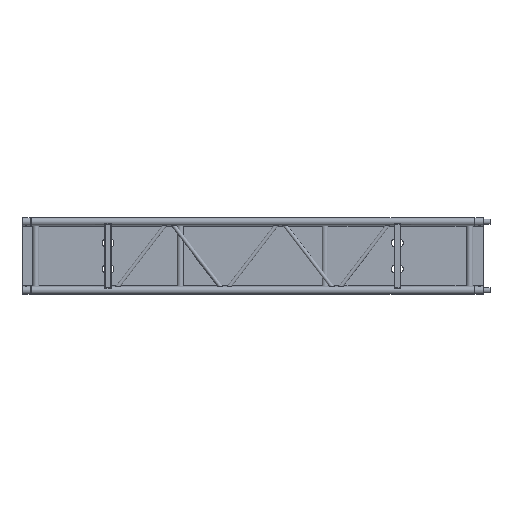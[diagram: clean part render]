
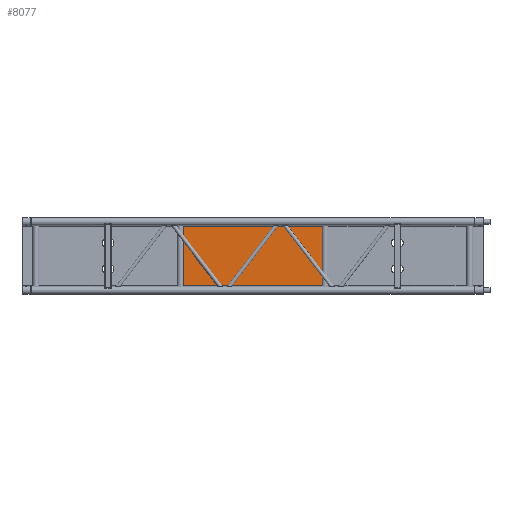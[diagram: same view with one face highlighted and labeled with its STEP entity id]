
A CAD part, front view. The second image highlights one B-rep face of the part: STEP entity #8077.
In plain terms, the highlighted planar face has unit normal (0, -1, 0).
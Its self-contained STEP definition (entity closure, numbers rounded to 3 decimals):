
#302=LINE('',#14323,#794);
#303=LINE('',#14325,#795);
#304=LINE('',#14327,#796);
#305=LINE('',#14328,#797);
#794=VECTOR('',#10054,10.);
#795=VECTOR('',#10055,10.);
#796=VECTOR('',#10056,10.);
#797=VECTOR('',#10057,10.);
#1435=PLANE('',#8683);
#2006=FACE_OUTER_BOUND('',#2441,.T.);
#2441=EDGE_LOOP('',(#5975,#5976,#5977,#5978));
#3639=VERTEX_POINT('',#14321);
#3640=VERTEX_POINT('',#14322);
#3641=VERTEX_POINT('',#14324);
#3642=VERTEX_POINT('',#14326);
#4591=EDGE_CURVE('',#3639,#3640,#302,.T.);
#4592=EDGE_CURVE('',#3641,#3639,#303,.T.);
#4593=EDGE_CURVE('',#3642,#3641,#304,.T.);
#4594=EDGE_CURVE('',#3642,#3640,#305,.T.);
#5975=ORIENTED_EDGE('',*,*,#4591,.F.);
#5976=ORIENTED_EDGE('',*,*,#4592,.F.);
#5977=ORIENTED_EDGE('',*,*,#4593,.F.);
#5978=ORIENTED_EDGE('',*,*,#4594,.T.);
#8077=ADVANCED_FACE('',(#2006),#1435,.T.);
#8683=AXIS2_PLACEMENT_3D('',#14320,#10052,#10053);
#10052=DIRECTION('center_axis',(0.,-1.,0.));
#10053=DIRECTION('ref_axis',(0.,0.,
1.));
#10054=DIRECTION('',(0.,0.,1.));
#10055=DIRECTION('',(-1.,0.,0.));
#10056=DIRECTION('',(0.,0.,-1.));
#10057=DIRECTION('',(-1.,0.,0.));
#14320=CARTESIAN_POINT('Origin',(2845.733,74.,-30.));
#14321=CARTESIAN_POINT('',(1204.071,74.,-490.));
#14322=CARTESIAN_POINT('',(1204.071,74.,-30.));
#14323=CARTESIAN_POINT('',(1204.071,74.,-260.));
#14324=CARTESIAN_POINT('',(2295.929,74.,-490.));
#14325=CARTESIAN_POINT('',(2845.733,74.,-490.));
#14326=CARTESIAN_POINT('',(2295.929,74.,-30.));
#14327=CARTESIAN_POINT('',(2295.929,74.,-260.));
#14328=CARTESIAN_POINT('',(2845.733,74.,-30.));
